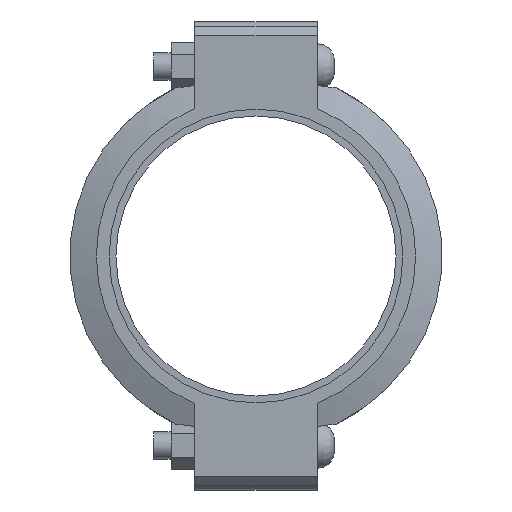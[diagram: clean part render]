
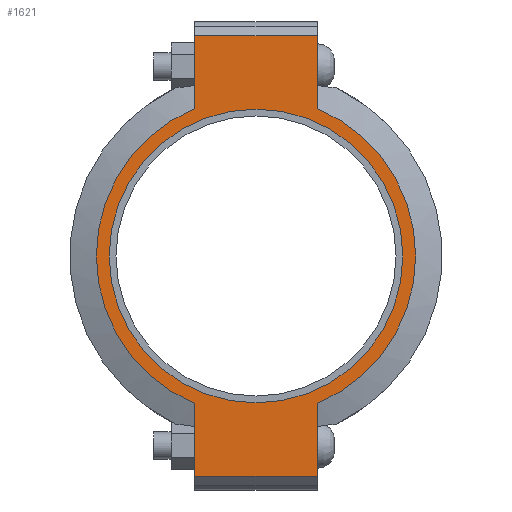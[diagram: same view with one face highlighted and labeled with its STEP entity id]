
A CAD part, left-side view. The second image highlights one B-rep face of the part: STEP entity #1621.
In plain terms, the highlighted planar face has unit normal (-1, 0, 0) as drawn and (0, 0, 1) by its records, which use the part's own axes.
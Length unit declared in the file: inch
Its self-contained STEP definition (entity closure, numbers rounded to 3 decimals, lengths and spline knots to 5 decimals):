
#192=LINE('',#2801,#281);
#203=LINE('',#2852,#292);
#209=LINE('',#2878,#298);
#211=LINE('',#2881,#300);
#212=LINE('',#2886,#301);
#213=LINE('',#2887,#302);
#281=VECTOR('',#2281,0.3937);
#292=VECTOR('',#2312,0.3937);
#298=VECTOR('',#2330,0.3937);
#300=VECTOR('',#2334,0.3937);
#301=VECTOR('',#2339,0.3937);
#302=VECTOR('',#2340,0.3937);
#364=FACE_BOUND('',#541,.T.);
#432=FACE_OUTER_BOUND('',#540,.T.);
#540=EDGE_LOOP('',(#1316,#1317,#1318,#1319,#1320,#1321,#1322,#1323));
#541=EDGE_LOOP('',(#1324));
#623=CIRCLE('',#1849,5.375);
#647=CIRCLE('',#1901,5.845);
#648=CIRCLE('',#1902,5.845);
#719=VERTEX_POINT('',#2627);
#760=VERTEX_POINT('',#2798);
#761=VERTEX_POINT('',#2800);
#778=VERTEX_POINT('',#2847);
#779=VERTEX_POINT('',#2851);
#786=VERTEX_POINT('',#2873);
#787=VERTEX_POINT('',#2877);
#788=VERTEX_POINT('',#2883);
#789=VERTEX_POINT('',#2885);
#883=EDGE_CURVE('',#719,#719,#623,.T.);
#940=EDGE_CURVE('',#761,#760,#192,.T.);
#961=EDGE_CURVE('',#779,#778,#203,.T.);
#972=EDGE_CURVE('',#787,#786,#209,.T.);
#974=EDGE_CURVE('',#787,#760,#211,.T.);
#975=EDGE_CURVE('',#786,#788,#647,.T.);
#976=EDGE_CURVE('',#788,#789,#212,.T.);
#977=EDGE_CURVE('',#779,#789,#213,.T.);
#978=EDGE_CURVE('',#778,#761,#648,.T.);
#1316=ORIENTED_EDGE('',*,*,#974,.F.);
#1317=ORIENTED_EDGE('',*,*,#972,.T.);
#1318=ORIENTED_EDGE('',*,*,#975,.T.);
#1319=ORIENTED_EDGE('',*,*,#976,.T.);
#1320=ORIENTED_EDGE('',*,*,#977,.F.);
#1321=ORIENTED_EDGE('',*,*,#961,.T.);
#1322=ORIENTED_EDGE('',*,*,#978,.T.);
#1323=ORIENTED_EDGE('',*,*,#940,.T.);
#1324=ORIENTED_EDGE('',*,*,#883,.T.);
#1461=PLANE('',#1900);
#1621=ADVANCED_FACE('',(#432,#364),#1461,.T.);
#1849=AXIS2_PLACEMENT_3D('',#2629,#2171,#2172);
#1900=AXIS2_PLACEMENT_3D('',#2882,#2335,#2336);
#1901=AXIS2_PLACEMENT_3D('',#2884,#2337,#2338);
#1902=AXIS2_PLACEMENT_3D('',#2888,#2341,#2342);
#2171=DIRECTION('center_axis',(0.,0.,-1.));
#2172=DIRECTION('ref_axis',(-1.,0.,0.));
#2281=DIRECTION('',(-1.,0.,0.));
#2312=DIRECTION('',(-1.,0.,0.));
#2330=DIRECTION('',(1.,0.,0.));
#2334=DIRECTION('',(0.,1.,0.));
#2335=DIRECTION('center_axis',(0.,0.,1.));
#2336=DIRECTION('ref_axis',(1.,0.,0.));
#2337=DIRECTION('center_axis',(0.,0.,1.));
#2338=DIRECTION('ref_axis',(-1.,0.,0.));
#2339=DIRECTION('',(1.,0.,0.));
#2340=DIRECTION('',(0.,-1.,0.));
#2341=DIRECTION('center_axis',(0.,0.,1.));
#2342=DIRECTION('ref_axis',(-1.,0.,0.));
#2627=CARTESIAN_POINT('',(5.375,0.,1.315));
#2629=CARTESIAN_POINT('Origin',(0.,0.,1.315));
#2798=CARTESIAN_POINT('',(-8.065,2.25,1.315));
#2800=CARTESIAN_POINT('',(-5.39458,2.25,1.315));
#2801=CARTESIAN_POINT('',(8.565,2.25,1.315));
#2847=CARTESIAN_POINT('',(5.39458,2.25,1.315));
#2851=CARTESIAN_POINT('',(8.065,2.25,1.315));
#2852=CARTESIAN_POINT('',(8.565,2.25,1.315));
#2873=CARTESIAN_POINT('',(-5.39458,-2.25,1.315));
#2877=CARTESIAN_POINT('',(-8.065,-2.25,1.315));
#2878=CARTESIAN_POINT('',(-8.565,-2.25,1.315));
#2881=CARTESIAN_POINT('',(-8.065,1.125,1.315));
#2882=CARTESIAN_POINT('Origin',(0.,0.,
1.315));
#2883=CARTESIAN_POINT('',(5.39458,-2.25,1.315));
#2884=CARTESIAN_POINT('Origin',(0.,0.,1.315));
#2885=CARTESIAN_POINT('',(8.065,-2.25,1.315));
#2886=CARTESIAN_POINT('',(-8.565,-2.25,1.315));
#2887=CARTESIAN_POINT('',(8.065,-1.125,1.315));
#2888=CARTESIAN_POINT('Origin',(0.,0.,1.315));
